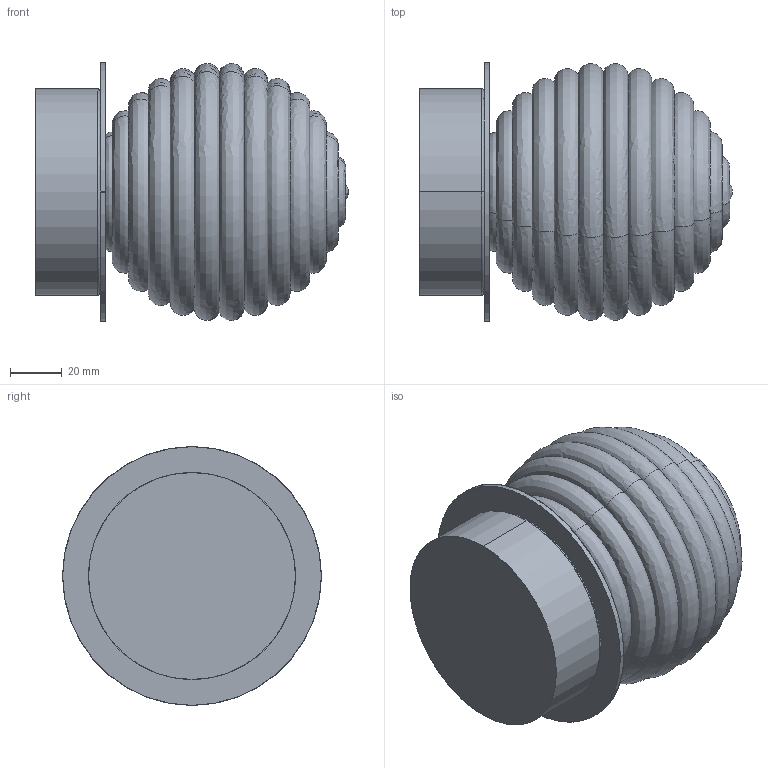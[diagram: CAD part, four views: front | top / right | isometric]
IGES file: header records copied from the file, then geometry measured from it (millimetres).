
Start section: SolidWorks IGES file using analytic representation for surfaces
Global section: file name: C:\Users\Agus\Desktop\NOVEDADES_2023_1\DOUL_1310\T1310\3D\DOUL_T1310.IGS; native system: SolidWorks 2018; preprocessor: SolidWorks 2018; author: Agus; date: 230214.123800; units: millimetre
Bounding box: 121 x 100 x 100 mm (x, y, z)
Surface area: 83871.8 mm2 (no closed solid volume)
Topology: 0 solids, 0 shells, 50 faces, 780 edges, 779 vertices
Faces by surface type: bspline 36, revolution 14
